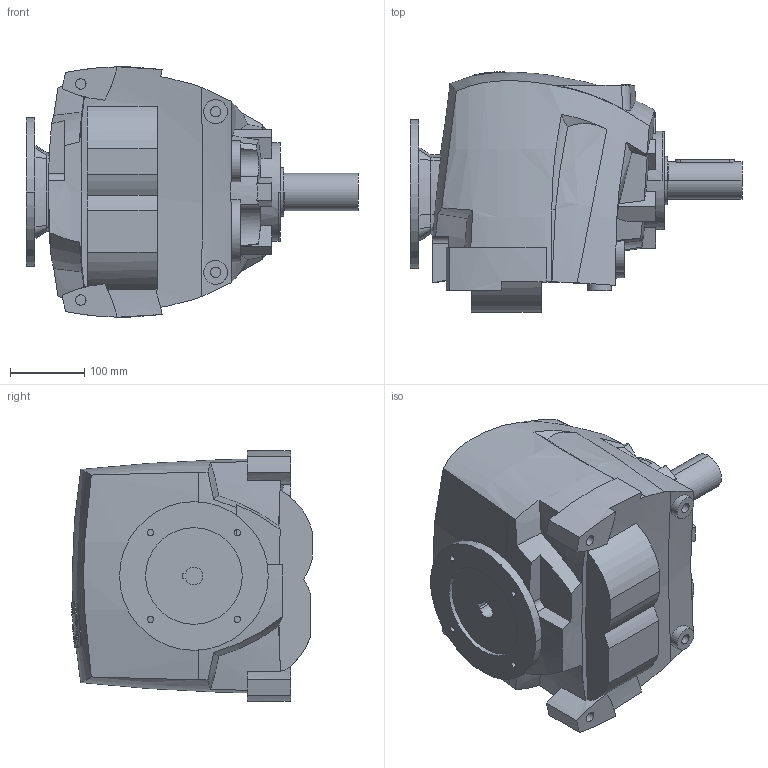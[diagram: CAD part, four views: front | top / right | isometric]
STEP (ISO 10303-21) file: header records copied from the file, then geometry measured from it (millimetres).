
FILE_DESCRIPTION((''),'2;1');
FILE_NAME('R50_UNV_PAM90','2013-12-18T',('Luca'),(''),'PRO/ENGINEER BY PARAMETRIC TECHNOLOGY CORPORATION, 2008230','PRO/ENGINEER BY PARAMETRIC TECHNOLOGY CORPORATION, 2008230','');
FILE_SCHEMA(('CONFIG_CONTROL_DESIGN'));
Length unit declared in the file: millimetre
Products named in the file (1): R50_UNV_PAM90
Bounding box: 446.5 x 323.71 x 336.73 mm (x, y, z)
Volume: 21471856.9 mm3; surface area: 569947.6 mm2
Topology: 1 solids, 1 shells, 389 faces, 1052 edges, 701 vertices
Faces by surface type: plane 164, cylinder 116, bspline 86, cone 11, torus 7, extrusion 5
Entity records: 16968 total; most frequent: CARTESIAN_POINT 7788, ORIENTED_EDGE 2100, DIRECTION 1565, EDGE_CURVE 1050, VERTEX_POINT 701, AXIS2_PLACEMENT_3D 537, VECTOR 491, LINE 486
